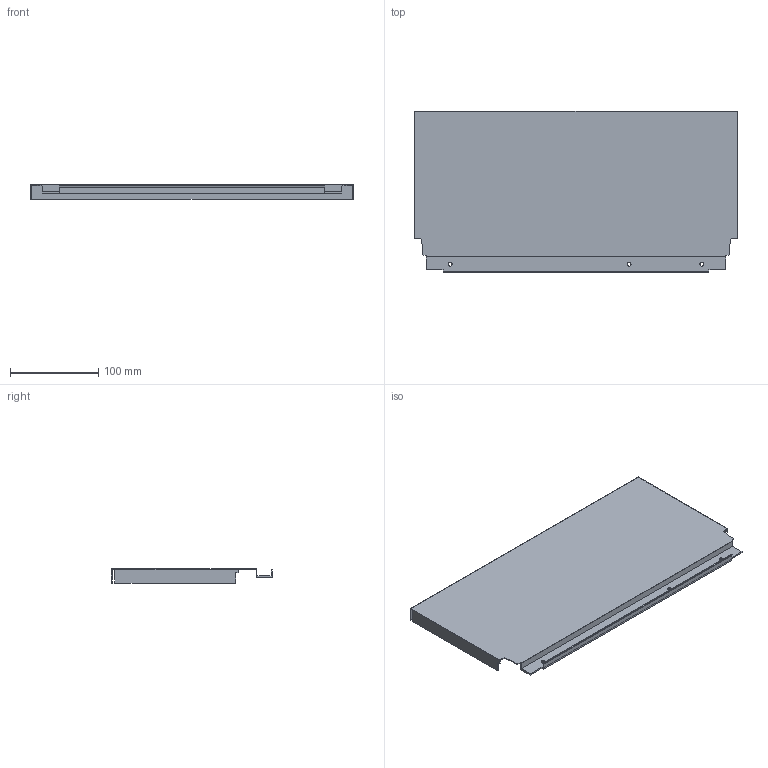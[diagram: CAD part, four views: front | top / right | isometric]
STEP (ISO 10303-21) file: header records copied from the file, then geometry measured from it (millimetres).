
FILE_DESCRIPTION (( 'STEP AP214' ), '1' );
FILE_NAME ('_DWD_XP Stahlrückwand_H182_KAB450_S17.step', '2010-07-08T12:57:42', ( 'grass' ), ( '' ), 'SwSTEP 2.0', 'SolidWorks 2010', '' );
FILE_SCHEMA (( 'AUTOMOTIVE_DESIGN' ));
Length unit declared in the file: millimetre
Products named in the file (1): _DWD_XP Stahlrückwand_H182_KAB450_S17
Bounding box: 365 x 182.49 x 16 mm (x, y, z)
Volume: 69296.7 mm3; surface area: 161416.4 mm2
Topology: 1 solids, 1 shells, 46 faces, 132 edges, 88 vertices
Faces by surface type: plane 40, cylinder 6
Entity records: 1534 total; most frequent: CARTESIAN_POINT 267, ORIENTED_EDGE 264, DIRECTION 238, EDGE_CURVE 132, VECTOR 120, LINE 120, VERTEX_POINT 88, AXIS2_PLACEMENT_3D 59
